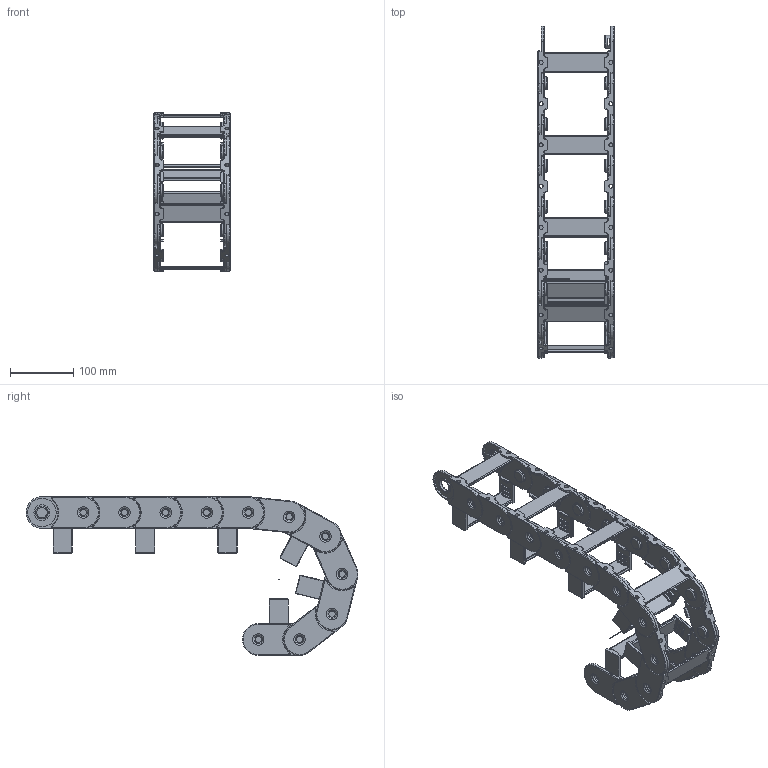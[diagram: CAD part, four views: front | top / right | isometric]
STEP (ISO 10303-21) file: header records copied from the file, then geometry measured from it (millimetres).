
FILE_DESCRIPTION((''),'2;1');
FILE_NAME('C:\Uebbing\TRACE PARTS\PKK\PKK 213\PKK 213 vereinfacht.stp','2013-05-02T10:59:30',('Uebbing'),(''),'Autodesk Inventor 10','Autodesk Inventor 10','');
FILE_SCHEMA(('AUTOMOTIVE_DESIGN { 1 0 10303 214 1 1 1 1 }'));
Length unit declared in the file: millimetre
Products named in the file (7): PKK 213 PARAMETRISCH; Achse; PKK 210 Glied ohne Steg vereinfacht; PKK 210 Lasche vereinfacht; PKK 213 Glied vereinfacht; 22 Steg vereinfacht; PKK 220 Aufbausteg lang vereinfacht
Assembly tree (20 placements, depth 3):
  PKK 213 PARAMETRISCH
    Achse
    PKK 210 Glied ohne Steg vereinfacht  x5
      PKK 210 Lasche vereinfacht
    PKK 213 Glied vereinfacht  x6
      PKK 210 Lasche vereinfacht
      22 Steg vereinfacht
      PKK 220 Aufbausteg lang vereinfacht
Bounding box: 120 x 523.06 x 250 mm (x, y, z)
Volume: 808936.2 mm3; surface area: 475458.1 mm2
Topology: 47 solids, 47 shells, 2891 faces, 6840 edges, 4167 vertices
Faces by surface type: cylinder 1341, plane 938, bspline 318, torus 250, sphere 44
Full cylindrical faces by diameter (mm): 1 x1, 6.3 x34, 14 x22, 20.1 x22, 20.309 x22, 25 x44, 45 x44
Entity records: 5495 total; most frequent: CARTESIAN_POINT 1166, DIRECTION 926, ORIENTED_EDGE 798, EDGE_CURVE 399, AXIS2_PLACEMENT_3D 346, VERTEX_POINT 253, VECTOR 234, LINE 234
